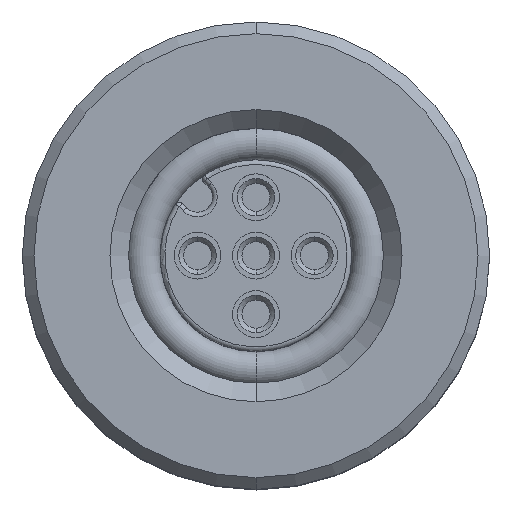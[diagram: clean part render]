
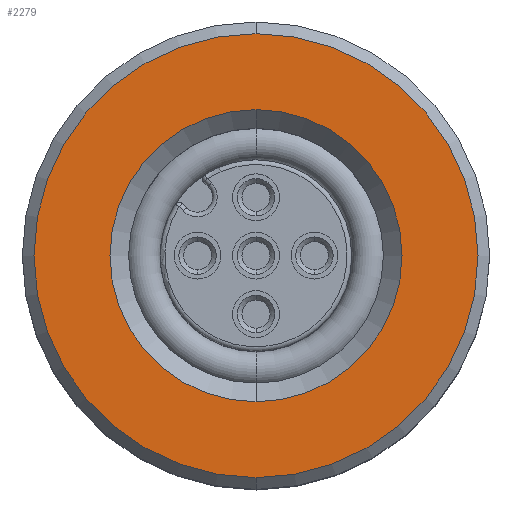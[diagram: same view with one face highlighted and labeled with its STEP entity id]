
A CAD part, top view. The second image highlights one B-rep face of the part: STEP entity #2279.
In plain terms, the highlighted planar face has unit normal (0, 0, 1).
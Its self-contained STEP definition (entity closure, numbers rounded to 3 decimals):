
#199=CARTESIAN_POINT('',(0.,0.,-0.6));
#200=DIRECTION('',(0.,0.,1.));
#201=DIRECTION('',(0.,1.,0.));
#202=AXIS2_PLACEMENT_3D('',#199,#200,#201);
#204=CARTESIAN_POINT('',(0.,0.,-0.6));
#205=DIRECTION('',(0.,0.,-1.));
#206=DIRECTION('',(0.,1.,0.));
#207=AXIS2_PLACEMENT_3D('',#204,#205,#206);
#209=CARTESIAN_POINT('',(0.,0.,-0.6));
#210=DIRECTION('',(0.,0.,1.));
#211=DIRECTION('',(0.,1.,0.));
#212=AXIS2_PLACEMENT_3D('',#209,#210,#211);
#214=CARTESIAN_POINT('',(0.,0.,-0.6));
#215=DIRECTION('',(0.,0.,-1.));
#216=DIRECTION('',(0.,1.,0.));
#217=AXIS2_PLACEMENT_3D('',#214,#215,#216);
#1750=CARTESIAN_POINT('',(0.,6.25,-0.6));
#1752=VERTEX_POINT('',#1750);
#1766=CARTESIAN_POINT('',(0.,-6.25,-0.6));
#1768=VERTEX_POINT('',#1766);
#1786=CARTESIAN_POINT('',(0.,9.5,-0.6));
#1787=VERTEX_POINT('',#1786);
#1788=CARTESIAN_POINT('',(0.,-9.5,-0.6));
#1789=VERTEX_POINT('',#1788);
#2264=CARTESIAN_POINT('',(0.,0.,-0.6));
#2265=DIRECTION('',(0.,0.,-1.));
#2266=DIRECTION('',(0.,-1.,0.));
#2267=AXIS2_PLACEMENT_3D('',#2264,#2265,#2266);
#2268=PLANE('',#2267);
#2270=ORIENTED_EDGE('',*,*,#2269,.F.);
#2272=ORIENTED_EDGE('',*,*,#2271,.T.);
#2273=EDGE_LOOP('',(#2270,#2272));
#2274=FACE_OUTER_BOUND('',#2273,.F.);
#2275=ORIENTED_EDGE('',*,*,#2257,.F.);
#2276=ORIENTED_EDGE('',*,*,#2246,.T.);
#2277=EDGE_LOOP('',(#2275,#2276));
#2278=FACE_BOUND('',#2277,.F.);
#203=CIRCLE('',#202,6.25);
#208=CIRCLE('',#207,6.25);
#213=CIRCLE('',#212,9.5);
#218=CIRCLE('',#217,9.5);
#2246=EDGE_CURVE('',#1752,#1768,#203,.T.);
#2257=EDGE_CURVE('',#1752,#1768,#208,.T.);
#2269=EDGE_CURVE('',#1787,#1789,#213,.T.);
#2271=EDGE_CURVE('',#1787,#1789,#218,.T.);
#2279=ADVANCED_FACE('',(#2274,#2278),#2268,.F.);
